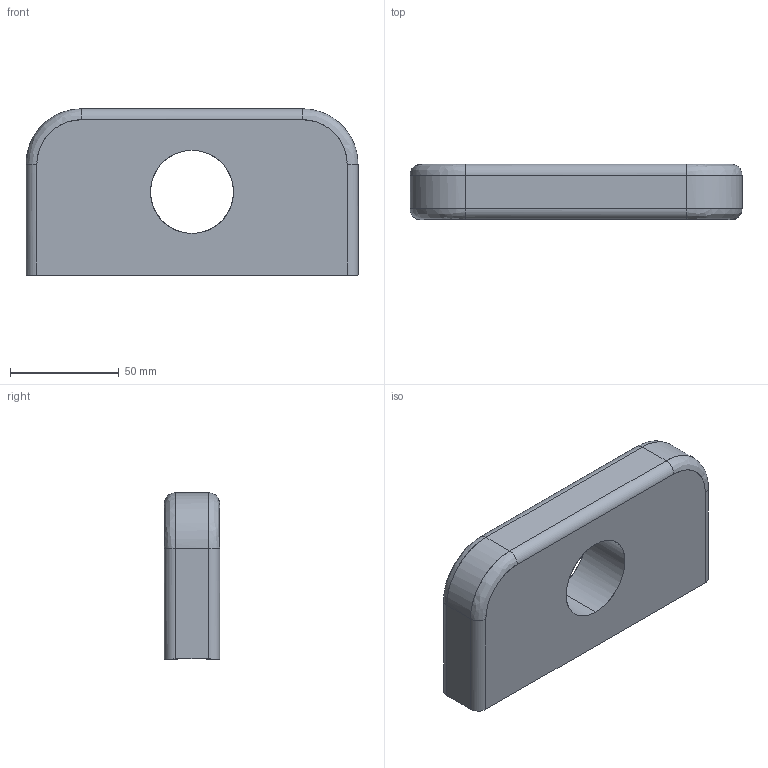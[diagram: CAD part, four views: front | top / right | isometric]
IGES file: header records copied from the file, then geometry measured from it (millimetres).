
Start section: C
Global section: file name: crane_mount.igs; native system:  By UGS Corp.; preprocessor: XPlus GENERIC/IGES 3.0; author: Author; organization: Title; date: 20110219.171405; units: millimetre
Bounding box: 152.4 x 25.4 x 76.29 mm (x, y, z)
Surface area: 33272.8 mm2 (no closed solid volume)
Topology: 0 solids, 0 shells, 21 faces, 98 edges, 98 vertices
Faces by surface type: bspline 21
